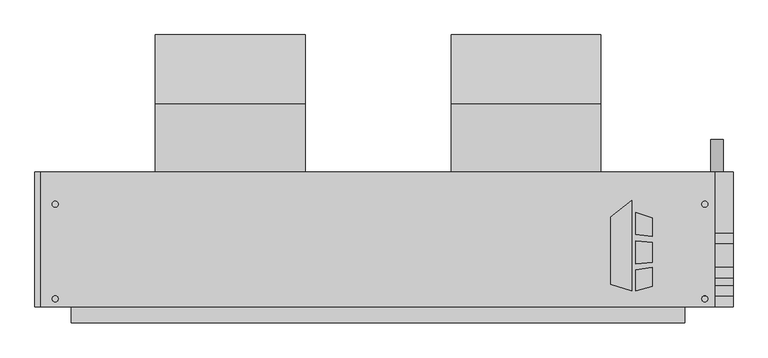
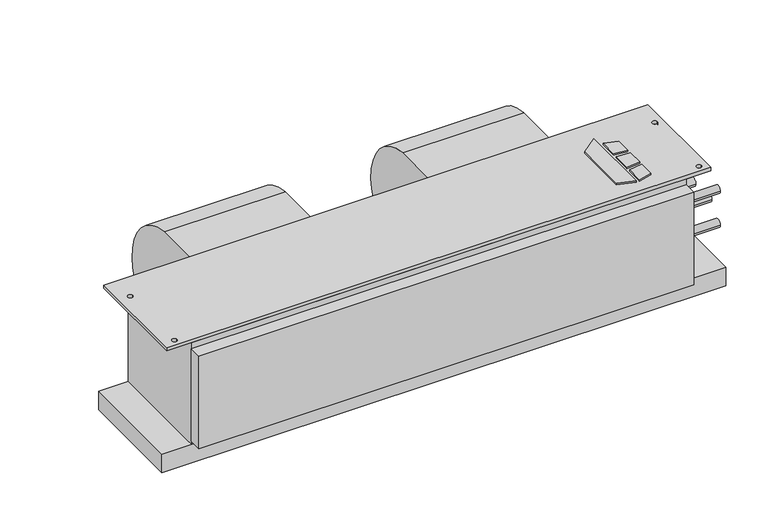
"""IFC4 building model written with IfcOpenShell, lengths in millimetres: proxy geometry, Concealed_Horizontal_Fan_Coil_Unit_-_CHY_-_IEC_-_4-Pipe_RH_2022 : Size 08 - 277v/60Hz/1Ph - 4/1 Coil."""

import ifcopenshell
import ifcopenshell.guid

model = None  # the IFC model being written
_history = None  # IfcOwnerHistory: only IFC2X3 demands one
_inside = {}  # id of a spatial element -> (the spatial element, [elements in it])
_under = {}  # id of a project, library or spatial element -> (it, [spatial elements below it])
_declared = {}  # id of a project -> (the project, [libraries it declares])
_typed = {}  # id of a type object -> (the type object, [elements of that type])
_made_of = {}  # id of a material, layer set ... -> (it, [elements and type objects made of it])


def new_model(schema):
    """Start an empty IFC model of exactly this schema.

    Asked for "IFC4X3", IfcOpenShell would pick the latest addendum, in which some entities
    have other attributes; the version numbers below select the first issue.
    IFC2X3 requires an IfcOwnerHistory on every rooted entity: one is made here for all.
    """
    global model, _history
    if schema == "IFC4X3":
        model = ifcopenshell.file(schema_version=(4, 3, 0, 0))
    else:
        model = ifcopenshell.file(schema=schema)
    _inside.clear()
    _under.clear()
    _declared.clear()
    _typed.clear()
    _made_of.clear()
    _history = None
    if model.schema == "IFC2X3":
        org = make("IfcOrganization", Name="unknown")
        user = make(
            "IfcPersonAndOrganization",
            ThePerson=make("IfcPerson", FamilyName="unknown"),
            TheOrganization=org,
        )
        app = make(
            "IfcApplication",
            ApplicationDeveloper=org,
            Version="unknown",
            ApplicationFullName="unknown",
            ApplicationIdentifier="unknown",
        )
        _history = make(
            "IfcOwnerHistory",
            OwningUser=user,
            OwningApplication=app,
            ChangeAction="ADDED",
            CreationDate=0,
        )
    return model


def make(cls, **values):
    """One entity of the class cls with the attributes given. An attribute that is None is left unset."""
    return model.create_entity(
        cls, **{name: value for name, value in values.items() if value is not None}
    )


def rooted(cls, **values):
    """An entity with a GlobalId (a new one), such as an element, a storey or a relation."""
    return make(cls, GlobalId=ifcopenshell.guid.new(), OwnerHistory=_history, **values)


def si_unit(unit_type, name, prefix=None):
    """IfcSIUnit, for example si_unit("LENGTHUNIT", "METRE", prefix="MILLI")."""
    return make("IfcSIUnit", UnitType=unit_type, Prefix=prefix, Name=name)


def assignment(units):
    """IfcUnitAssignment: the units of a project."""
    return None if units is None else make("IfcUnitAssignment", Units=units)


def point(xyz):
    """IfcCartesianPoint."""
    return None if xyz is None else make("IfcCartesianPoint", Coordinates=xyz)


def direction(xyz):
    """IfcDirection."""
    return None if xyz is None else make("IfcDirection", DirectionRatios=xyz)


def frame(location, z_axis=None, x_axis=None):
    """IfcAxis2Placement3D, a coordinate frame: its origin and axes. An axis left out is left unset."""
    return make(
        "IfcAxis2Placement3D",
        Location=point(location),
        Axis=direction(z_axis),
        RefDirection=direction(x_axis),
    )


def frame_2d(location, x_axis=None):
    """IfcAxis2Placement2D, a coordinate frame in the plane: its origin and x axis."""
    return make(
        "IfcAxis2Placement2D", Location=point(location), RefDirection=direction(x_axis)
    )


def origin():
    """The frame at (0, 0, 0) with its axes left unset."""
    return frame((0.0, 0.0, 0.0))


def origin_with_axes():
    """The frame at (0, 0, 0) with the z axis (0, 0, 1) and the x axis (1, 0, 0) written out."""
    return frame((0.0, 0.0, 0.0), z_axis=(0.0, 0.0, 1.0), x_axis=(1.0, 0.0, 0.0))


def place(relative_to, where):
    """IfcLocalPlacement: puts the frame where relative to a parent placement (None: the world)."""
    return make(
        "IfcLocalPlacement", PlacementRelTo=relative_to, RelativePlacement=where
    )


def context(
    kind, dimensions, precision=None, world=None, true_north=None, identifier=None
):
    """IfcGeometricRepresentationContext, for example the 3D "Model" context."""
    return make(
        "IfcGeometricRepresentationContext",
        ContextIdentifier=identifier,
        ContextType=kind,
        CoordinateSpaceDimension=dimensions,
        Precision=precision,
        WorldCoordinateSystem=world,
        TrueNorth=true_north,
    )


def project(units=None, contexts=None):
    """IfcProject with its units and contexts."""
    return rooted(
        "IfcProject",
        Name="project",
        RepresentationContexts=contexts,
        UnitsInContext=assignment(units),
    )


def spatial(cls, under=None, at=None, **own):
    """A site, building, storey or space (cls), placed at a placement, below another one or the project."""
    s = rooted(cls, ObjectPlacement=at, **own)
    if under is not None:
        _under.setdefault(under.id(), (under, []))[1].append(s)
    return s


def polyline(points):
    """IfcPolyline through the points."""
    return make("IfcPolyline", Points=[point(p) for p in points])


def circle_curve(where, radius):
    """IfcCircle in the frame where."""
    return make("IfcCircle", Position=where, Radius=radius)


def trimmed(basis, trim1, trim2, sense, master):
    """IfcTrimmedCurve: the piece of a basis curve between two trims."""
    return make(
        "IfcTrimmedCurve",
        BasisCurve=basis,
        Trim1=trim1,
        Trim2=trim2,
        SenseAgreement=sense,
        MasterRepresentation=master,
    )


def segment(curve, same_sense, transition):
    """IfcCompositeCurveSegment."""
    return make(
        "IfcCompositeCurveSegment",
        Transition=transition,
        SameSense=same_sense,
        ParentCurve=curve,
    )


def composite_curve(segments, self_intersect=None):
    """IfcCompositeCurve: segments joined end to end."""
    return make("IfcCompositeCurve", Segments=segments, SelfIntersect=self_intersect)


def outline(outer, holes=None, kind="AREA"):
    """IfcArbitraryClosedProfileDef: a profile drawn as a closed curve; with holes, ...WithVoids."""
    if holes is None:
        return make("IfcArbitraryClosedProfileDef", ProfileType=kind, OuterCurve=outer)
    return make(
        "IfcArbitraryProfileDefWithVoids",
        ProfileType=kind,
        OuterCurve=outer,
        InnerCurves=holes,
    )


def extrude(swept, where, along, depth):
    """IfcExtrudedAreaSolid: the profile swept, set in the frame where, extruded along a direction by depth."""
    return make(
        "IfcExtrudedAreaSolid",
        SweptArea=swept,
        Position=where,
        ExtrudedDirection=direction(along),
        Depth=depth,
    )


def shape(context_of_items, identifier, shape_type, items):
    """IfcShapeRepresentation: the items that make up one representation, for example the "Body"."""
    return make(
        "IfcShapeRepresentation",
        ContextOfItems=context_of_items,
        RepresentationIdentifier=identifier,
        RepresentationType=shape_type,
        Items=items,
    )


def source(mapping_origin, context_of_items, identifier, shape_type, items):
    """IfcRepresentationMap: a shape defined once, which mapped items show again and again."""
    return make(
        "IfcRepresentationMap",
        MappingOrigin=mapping_origin,
        MappedRepresentation=shape(context_of_items, identifier, shape_type, items),
    )


def transform(
    local_origin,
    x_axis=None,
    y_axis=None,
    z_axis=None,
    scale=None,
    scale2=None,
    scale3=None,
    uniform=True,
):
    """IfcCartesianTransformationOperator3D, or its non-uniform kind. x_axis, y_axis, z_axis: its Axis1, 2, 3."""
    if uniform:
        return make(
            "IfcCartesianTransformationOperator3D",
            Axis1=direction(x_axis),
            Axis2=direction(y_axis),
            LocalOrigin=point(local_origin),
            Scale=scale,
            Axis3=direction(z_axis),
        )
    return make(
        "IfcCartesianTransformationOperator3DnonUniform",
        Axis1=direction(x_axis),
        Axis2=direction(y_axis),
        LocalOrigin=point(local_origin),
        Scale=scale,
        Axis3=direction(z_axis),
        Scale2=scale2,
        Scale3=scale3,
    )


def mapped(mapping_source, mapping_target):
    """IfcMappedItem: shows the shape of a source again, moved by a transform."""
    return make(
        "IfcMappedItem", MappingSource=mapping_source, MappingTarget=mapping_target
    )


def made_of(thing, what):
    """Note that an element or type object is made of a material, layer set ...; save() writes the relation."""
    if what is not None:
        _made_of.setdefault(what.id(), (what, []))[1].append(thing)
    return thing


def element(
    cls,
    number,
    at=None,
    inside=None,
    cuts=None,
    type_object=None,
    material=None,
    context=None,
    identifier="Body",
    shape_type=None,
    held_by="IfcProductDefinitionShape",
    body=None,
    shapes=None,
    **own,
):
    """One element of the class cls, such as IfcWall. Its Tag is "e" and its number.

    at: its placement. inside: the storey or other place that contains it. cuts: it is an
    opening in that element (IfcRelVoidsElement). A single representation is given by context,
    identifier, shape_type and body (its items); several are given by shapes. held_by: the class
    of the entity that holds the representations. save() writes the other relations.
    """
    e = rooted(cls, Tag="e%d" % number, ObjectPlacement=at, **own)
    if body is not None:
        shapes = [shape(context, identifier, shape_type, body)]
    if shapes is not None:
        e.Representation = make(held_by, Representations=shapes)
    if inside is not None:
        _inside.setdefault(inside.id(), (inside, []))[1].append(e)
    if cuts is not None:
        rooted(
            "IfcRelVoidsElement", RelatingBuildingElement=cuts, RelatedOpeningElement=e
        )
    if type_object is not None:
        _typed.setdefault(type_object.id(), (type_object, []))[1].append(e)
    return made_of(e, material)


def aggregate(whole, parts):
    """IfcRelAggregates: a whole, such as a stair, and the parts it consists of."""
    return rooted("IfcRelAggregates", RelatingObject=whole, RelatedObjects=parts)


def save(model, path):
    """Write the relations noted so far, then the file.

    IfcRelAggregates (storeys below a building ...), IfcRelContainedInSpatialStructure (elements
    in a storey), IfcRelDefinesByType, IfcRelAssociatesMaterial and IfcRelDeclares: one each for
    every whole, place, type object, material and project.
    """
    for whole, parts in _under.values():
        aggregate(whole, parts)
    for where, things in _inside.values():
        rooted(
            "IfcRelContainedInSpatialStructure",
            RelatedElements=things,
            RelatingStructure=where,
        )
    for kind, things in _typed.values():
        rooted("IfcRelDefinesByType", RelatedObjects=things, RelatingType=kind)
    for what, things in _made_of.values():
        rooted("IfcRelAssociatesMaterial", RelatedObjects=things, RelatingMaterial=what)
    for by, libraries in _declared.values():
        rooted("IfcRelDeclares", RelatingContext=by, RelatedDefinitions=libraries)
    model.write(path)


def mechanical_equipment_61bc071b(model_context):
    return source(origin(), model_context, "Body", "SweptSolid", [
        extrude(outline(polyline([(518.8019761, -202.5703476), (551.3602728, -177.1330184), (551.3602728, -319.0875), (518.8019761, -308.8679201), (518.8019761, -202.5703476)])), origin_with_axes(), (0.0, 0.0, 1.0), 3.175),
        extrude(outline(polyline([(558.1186058, -230.442352), (558.1186058, -195.9624379), (584.2, -204.1490115), (584.2, -233.6447446), (558.1186058, -230.442352)])), origin_with_axes(), (0.0, 0.0, 1.0), 3.175),
        extrude(outline(polyline([(584.2, -312.0990115), (558.1186058, -319.0875), (558.1186058, -285.8661996), (584.2, -282.3243564), (584.2, -312.0990115)])), origin_with_axes(), (0.0, 0.0, 1.0), 3.175),
        extrude(outline(polyline([(584.2, -242.7263277), (584.2, -273.976483), (558.1186058, -276.717748), (558.1186058, -240.8600378), (584.2, -242.7263277)])), origin_with_axes(), (0.0, 0.0, 1.0), 3.175),
        extrude(outline(composite_curve([segment(trimmed(circle_curve(frame_2d((-33.198831, -136.0299844)), 117.3559541), [point((-23.8125, -19.05))], [point((84.1375, -138.176))], False, "CARTESIAN"), True, "CONTINUOUS"), segment(trimmed(circle_curve(frame_2d((-11.5977337, -136.4250563)), 95.7512443), [point((84.1375, -138.176))], [point((-23.8125, -231.394))], False, "CARTESIAN"), True, "CONTINUOUS"), segment(trimmed(circle_curve(frame_2d((-11.6288131, -136.6666968)), 95.5076133), [point((-23.8125, -231.394))], [point((-107.1245, -138.176))], False, "CARTESIAN"), True, "CONTINUOUS"), segment(trimmed(circle_curve(frame_2d((-126.2059828, -138.4775816)), 19.0838659), [point((-107.1245, -138.176))], [point((-119.3963373, -120.65))], True, "CARTESIAN"), True, "CONTINUOUS"), segment(polyline([(-119.3963373, -120.65), (-131.7625, -120.65), (-131.7625, -19.05), (-23.8125, -19.05)]), True, "CONTINUOUS")], self_intersect=False)), frame((267.5255, 0.0, 0.0), z_axis=(1.0, 0.0, 0.0), x_axis=(0.0, 1.0, 0.0)), (0.0, 0.0, 1.0), 235.712),
        extrude(outline(composite_curve([segment(trimmed(circle_curve(frame_2d((-33.198831, -136.0299844)), 117.3559541), [point((-23.8125, -19.05))], [point((84.1375, -138.176))], False, "CARTESIAN"), True, "CONTINUOUS"), segment(trimmed(circle_curve(frame_2d((-11.5977337, -136.4250563)), 95.7512443), [point((84.1375, -138.176))], [point((-23.8125, -231.394))], False, "CARTESIAN"), True, "CONTINUOUS"), segment(trimmed(circle_curve(frame_2d((-11.6288131, -136.6666968)), 95.5076133), [point((-23.8125, -231.394))], [point((-107.1245, -138.176))], False, "CARTESIAN"), True, "CONTINUOUS"), segment(trimmed(circle_curve(frame_2d((-126.2059828, -138.4775816)), 19.0838659), [point((-107.1245, -138.176))], [point((-119.3963373, -120.65))], True, "CARTESIAN"), True, "CONTINUOUS"), segment(polyline([(-119.3963373, -120.65), (-131.7625, -120.65), (-131.7625, -19.05), (-23.8125, -19.05)]), True, "CONTINUOUS")], self_intersect=False)), frame((-197.612, 0.0, 0.0), z_axis=(1.0, 0.0, 0.0), x_axis=(0.0, 1.0, 0.0)), (0.0, 0.0, 1.0), 235.712),
        extrude(outline(polyline([(682.625, -131.7625), (682.625, -344.4875), (-377.825, -344.4875), (-377.825, -131.7625), (682.625, -131.7625)]), holes=[composite_curve([segment(trimmed(circle_curve(frame_2d((-355.6, -182.5625)), 4.7625), [point((-360.3625, -182.5625))], [point((-350.8375, -182.5625))], True, "CARTESIAN"), True, "CONTINUOUS"), segment(trimmed(circle_curve(frame_2d((-355.6, -182.5625)), 4.7625), [point((-350.8375, -182.5625))], [point((-360.3625, -182.5625))], True, "CARTESIAN"), True, "CONTINUOUS")], self_intersect=False), composite_curve([segment(trimmed(circle_curve(frame_2d((-355.6, -331.7875)), 4.7625), [point((-360.3625, -331.7875))], [point((-350.8375, -331.7875))], True, "CARTESIAN"), True, "CONTINUOUS"), segment(trimmed(circle_curve(frame_2d((-355.6, -331.7875)), 4.7625), [point((-350.8375, -331.7875))], [point((-360.3625, -331.7875))], True, "CARTESIAN"), True, "CONTINUOUS")], self_intersect=False), composite_curve([segment(trimmed(circle_curve(frame_2d((666.75, -182.5625)), 4.7625), [point((661.9875, -182.5625))], [point((671.5125, -182.5625))], True, "CARTESIAN"), True, "CONTINUOUS"), segment(trimmed(circle_curve(frame_2d((666.75, -182.5625)), 4.7625), [point((671.5125, -182.5625))], [point((661.9875, -182.5625))], True, "CARTESIAN"), True, "CONTINUOUS")], self_intersect=False), composite_curve([segment(trimmed(circle_curve(frame_2d((666.75, -331.7875)), 4.7625), [point((661.9875, -331.7875))], [point((671.5125, -331.7875))], True, "CARTESIAN"), True, "CONTINUOUS"), segment(trimmed(circle_curve(frame_2d((666.75, -331.7875)), 4.7625), [point((671.5125, -331.7875))], [point((661.9875, -331.7875))], True, "CARTESIAN"), True, "CONTINUOUS")], self_intersect=False)]), frame((0.0, 0.0, -6.35), z_axis=(0.0, 0.0, 1.0), x_axis=(1.0, 0.0, 0.0)), (0.0, 0.0, 1.0), 6.35),
        extrude(outline(composite_curve([segment(trimmed(circle_curve(frame_2d((-241.3, 685.8)), 9.525), [point((-241.3, 676.275))], [point((-241.3, 695.325))], False, "CARTESIAN"), True, "CONTINUOUS"), segment(trimmed(circle_curve(frame_2d((-241.3, 685.8)), 9.525), [point((-241.3, 695.325))], [point((-241.3, 676.275))], False, "CARTESIAN"), True, "CONTINUOUS")], self_intersect=False)), frame((0.0, -131.7625, 0.0), z_axis=(0.0, 1.0, 0.0), x_axis=(0.0, 0.0, 1.0)), (0.0, 0.0, 1.0), 50.8),
        extrude(outline(polyline([(635.0, -369.8875), (-330.2, -369.8875), (-330.2, -344.4875), (635.0, -344.4875), (635.0, -369.8875)])), frame((0.0, 0.0, -209.55), z_axis=(0.0, 0.0, 1.0), x_axis=(1.0, 0.0, 0.0)), (0.0, 0.0, 1.0), 190.5),
        extrude(outline(polyline([(711.2, -131.7625), (711.2, -344.4875), (-387.35, -344.4875), (-387.35, -131.7625), (711.2, -131.7625)])), frame((0.0, 0.0, -254.0), z_axis=(0.0, 0.0, 1.0), x_axis=(1.0, 0.0, 0.0)), (0.0, 0.0, 1.0), 38.1),
        extrude(outline(composite_curve([segment(trimmed(circle_curve(frame_2d((-236.5375, -104.775)), 7.9375), [point((-244.475, -104.775))], [point((-228.6, -104.775))], False, "CARTESIAN"), True, "CONTINUOUS"), segment(trimmed(circle_curve(frame_2d((-236.5375, -104.775)), 7.9375), [point((-228.6, -104.775))], [point((-244.475, -104.775))], False, "CARTESIAN"), True, "CONTINUOUS")], self_intersect=False)), frame((635.0, 0.0, 0.0), z_axis=(1.0, 0.0, 0.0), x_axis=(0.0, 1.0, 0.0)), (0.0, 0.0, 1.0), 76.2),
        extrude(outline(composite_curve([segment(trimmed(circle_curve(frame_2d((-290.5125, -104.775)), 7.9375), [point((-298.45, -104.775))], [point((-282.575, -104.775))], False, "CARTESIAN"), True, "CONTINUOUS"), segment(trimmed(circle_curve(frame_2d((-290.5125, -104.775)), 7.9375), [point((-282.575, -104.775))], [point((-298.45, -104.775))], False, "CARTESIAN"), True, "CONTINUOUS")], self_intersect=False)), frame((635.0, 0.0, 0.0), z_axis=(1.0, 0.0, 0.0), x_axis=(0.0, 1.0, 0.0)), (0.0, 0.0, 1.0), 76.2),
        extrude(outline(composite_curve([segment(trimmed(circle_curve(frame_2d((-319.0875, -69.85)), 7.9375), [point((-327.025, -69.85))], [point((-311.15, -69.85))], False, "CARTESIAN"), True, "CONTINUOUS"), segment(trimmed(circle_curve(frame_2d((-319.0875, -69.85)), 7.9375), [point((-311.15, -69.85))], [point((-327.025, -69.85))], False, "CARTESIAN"), True, "CONTINUOUS")], self_intersect=False)), frame((635.0, 0.0, 0.0), z_axis=(1.0, 0.0, 0.0), x_axis=(0.0, 1.0, 0.0)), (0.0, 0.0, 1.0), 76.2),
        extrude(outline(composite_curve([segment(trimmed(circle_curve(frame_2d((-319.0875, -139.7)), 7.9375), [point((-327.025, -139.7))], [point((-311.15, -139.7))], False, "CARTESIAN"), True, "CONTINUOUS"), segment(trimmed(circle_curve(frame_2d((-319.0875, -139.7)), 7.9375), [point((-311.15, -139.7))], [point((-327.025, -139.7))], False, "CARTESIAN"), True, "CONTINUOUS")], self_intersect=False)), frame((635.0, 0.0, 0.0), z_axis=(1.0, 0.0, 0.0), x_axis=(0.0, 1.0, 0.0)), (0.0, 0.0, 1.0), 76.2),
        extrude(outline(polyline([(635.0, -344.4875), (-330.2, -344.4875), (-330.2, -131.7625), (635.0, -131.7625), (635.0, -344.4875)])), frame((0.0, 0.0, -215.9), z_axis=(0.0, 0.0, 1.0), x_axis=(1.0, 0.0, 0.0)), (0.0, 0.0, 1.0), 209.55),
    ])


if __name__ == "__main__":
    model = new_model("IFC4")
    model_context = context("Model", 3, world=origin())
    ifc_project = project(units=[si_unit("LENGTHUNIT", "METRE", prefix="MILLI")], contexts=[model_context])
    site = spatial("IfcSite", under=ifc_project)
    building = spatial("IfcBuilding", under=site)
    placement = place(None, origin())
    mechanical_equipment_shape = mechanical_equipment_61bc071b(model_context)
    element("IfcBuildingElementProxy", 1, Name="Concealed_Horizontal_Fan_Coil_Unit_-_CHY_-_IEC_-_4-Pipe_RH_2022 : Size 08 - 277v/60Hz/1Ph - 4/1 Coil", ObjectType="Concealed_Horizontal_Fan_Coil_Unit_-_CHY_-_IEC_-_4-Pipe_RH_2022 : Size 08 - 277v/60Hz/1Ph - 4/1 Coil", at=placement, inside=building, context=model_context, shape_type="MappedRepresentation", body=[
        mapped(mechanical_equipment_shape, transform((0.0, 0.0, 0.0), x_axis=(1.0, 0.0, 0.0), y_axis=(0.0, 1.0, 0.0), z_axis=(0.0, 0.0, 1.0))),
    ])
    save(model, "model.ifc")
